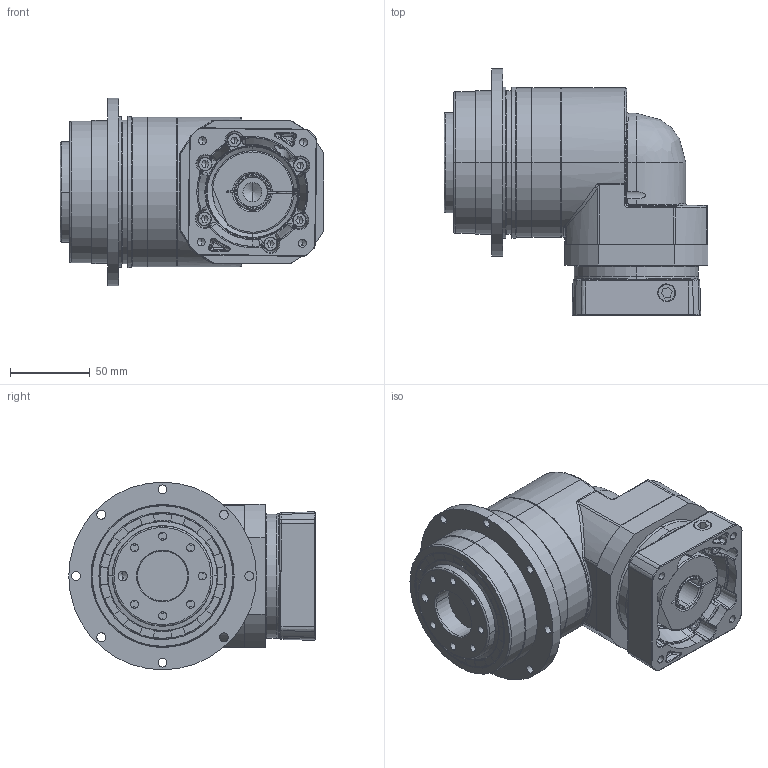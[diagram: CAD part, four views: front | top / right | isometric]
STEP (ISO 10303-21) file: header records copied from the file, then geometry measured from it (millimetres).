
FILE_DESCRIPTION (( 'STEP AP214' ), '1' );
FILE_NAME ('EVT090-L1-P1 19-70-90-M6-45.STEP', '2025-02-17T06:53:08', ( '微软用户' ), ( '微软中国' ), 'SwSTEP 2.0', 'SolidWorks 2021', '' );
FILE_SCHEMA (( 'AUTOMOTIVE_DESIGN' ));
Length unit declared in the file: millimetre
Products named in the file (4): 7-EVT090F_________stp_stp.stp.STEP; EVT090D-L1-19-70-90-M6-45.STEP; EVT090-L1-P1 19-70-90-M6-45; EVT090D-L1-10-80-100-M6-45.STEP
Assembly tree (4 placements, depth 2):
  EVT090-L1-P1 19-70-90-M6-45
    EVT090D-L1-19-70-90-M6-45.STEP
    7-EVT090F_________stp_stp.stp.STEP
    EVT090D-L1-10-80-100-M6-45.STEP  x2
Bounding box: 166 x 155.02 x 118 mm (x, y, z)
Volume: 242188.5 mm3; surface area: 226084.7 mm2
Topology: 1 solids, 33 shells, 1273 faces, 3161 edges, 2000 vertices
Faces by surface type: cylinder 417, plane 375, bspline 261, cone 211, torus 9
Entity records: 61446 total; most frequent: CARTESIAN_POINT 33889, ORIENTED_EDGE 5990, DIRECTION 5160, EDGE_CURVE 3037, AXIS2_PLACEMENT_3D 2049, VERTEX_POINT 1952, EDGE_LOOP 1403, ADVANCED_FACE 1244
